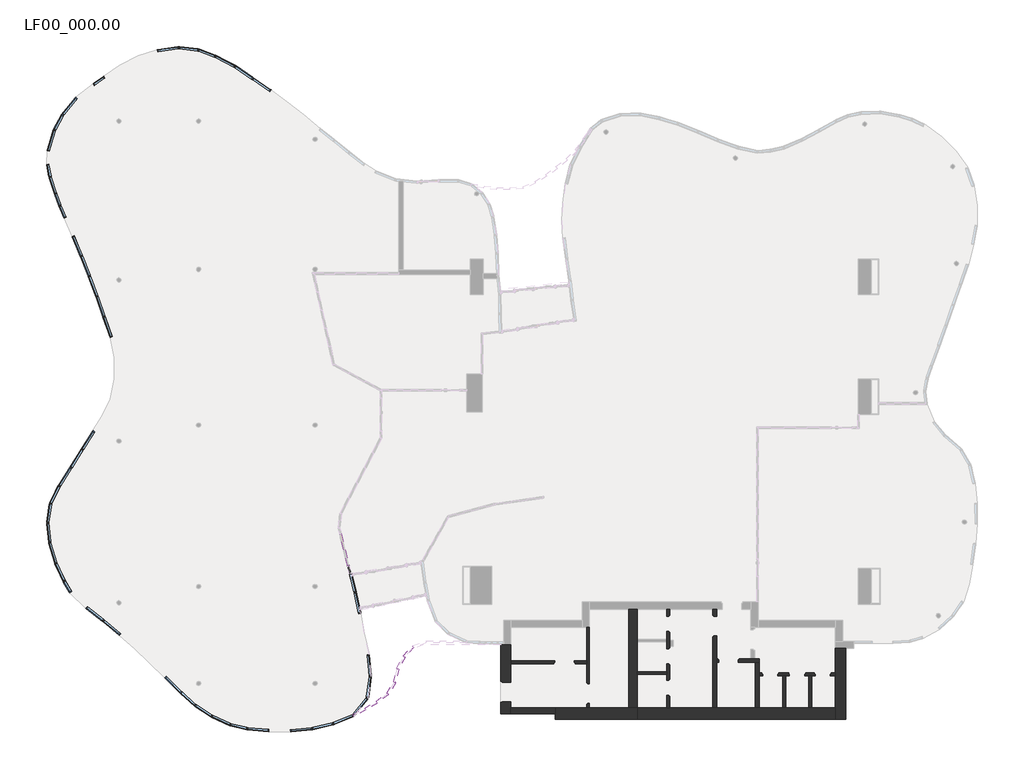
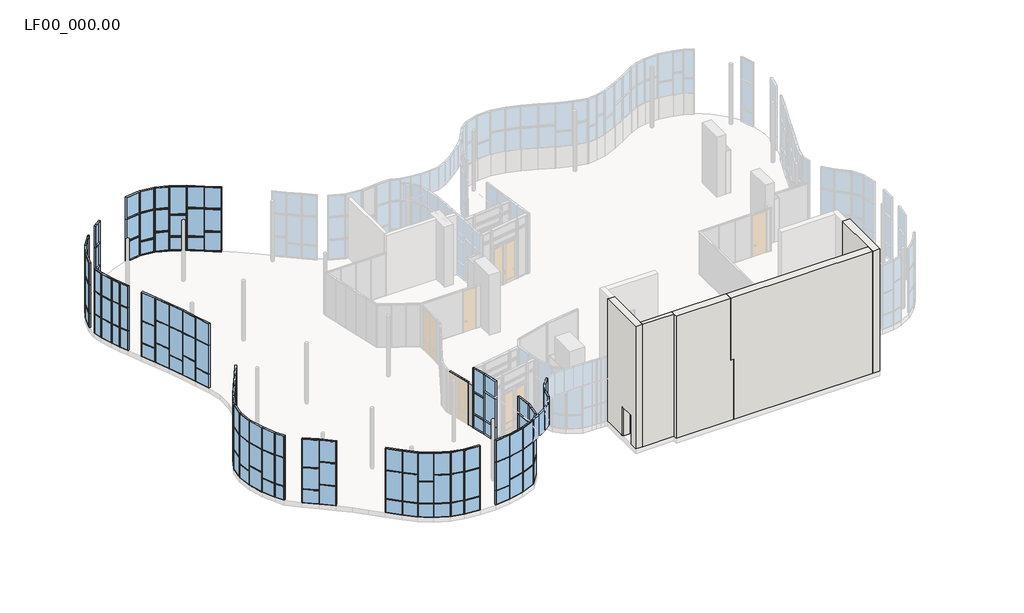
# One storey, part 1 of 8: 51 windows, 16 walls, 3 members, 1 plate.
"""IFC4 building model written with IfcOpenShell, lengths in millimetres."""

from ifc_helpers import new_model, si_unit, frame, origin, origin_with_axes, place, context, project, spatial, polyline, outline, extrude, faceted_brep, transform, mapped, element, save
from components import montante_rettangolare_ac_080x010_f14e0e64, montante_rettangolare_ac_080x050_a195ecd1, ve3_036_760cb13e, window_a39038a6, window_a7bb458b, window_1ea6608f, window_13cf38aa, window_36c3ef3e, window_04857959, window_4195a185, window_0f1a396c, window_b5501017, window_13306c7d, window_16313ac1, window_09fc64a4, window_0b33e4cf, window_5c8b0772, window_54e6ce9d, al_62_ab90a766

model = new_model("IFC4")

# Units and contexts
model_context = context("Model", 3, world=origin())
ifc_project = project(units=[si_unit("LENGTHUNIT", "METRE", prefix="MILLI")], contexts=[model_context])

# Site, building, storey
site = spatial("IfcSite", under=ifc_project)
building = spatial("IfcBuilding", under=site)
storey = spatial("IfcBuildingStorey", under=building, Name="LF00_000.00", Elevation=0.0)

# Members
placement = place(None, origin())
montante_rettangolare_ac_080x010_shape = montante_rettangolare_ac_080x010_f14e0e64(model_context)
element("IfcMember", 1, ObjectType="Montante rettangolare : AC_080x010", at=placement, inside=storey, context=model_context, shape_type="MappedRepresentation", body=[
    mapped(montante_rettangolare_ac_080x010_shape, transform((-92480.8990826, 3769.4366952, 20.0), x_axis=(0.23693617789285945, -0.9715252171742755, 0.0), y_axis=(-0.9715252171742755, -0.23693617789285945, 0.0), z_axis=(0.0, 0.0, -1.0))),
])
element("IfcMember", 2, ObjectType="Montante rettangolare : AC_080x010", at=placement, inside=storey, context=model_context, shape_type="MappedRepresentation", body=[
    mapped(montante_rettangolare_ac_080x010_shape, transform((-92395.6020585, 3419.687617, 20.0), x_axis=(0.23693617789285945, -0.9715252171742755, 0.0), y_axis=(-0.9715252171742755, -0.23693617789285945, 0.0), z_axis=(0.0, 0.0, -1.0))),
])
montante_rettangolare_ac_080x050_shape = montante_rettangolare_ac_080x050_a195ecd1(model_context)
element("IfcMember", 3, ObjectType="Montante rettangolare : AC_080x050", at=placement, inside=storey, context=model_context, shape_type="MappedRepresentation", body=[
    mapped(montante_rettangolare_ac_080x050_shape, transform((-92480.8990826, 3769.4366952, 3000.0), x_axis=(0.0, 0.0, 1.0), y_axis=(-0.9715252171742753, -0.23693617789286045, 0.0), z_axis=(0.23693617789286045, -0.9715252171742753, 0.0))),
])

# Plate
ve3_036_shape = ve3_036_760cb13e(model_context)
element("IfcPlate", 4, ObjectType="TRP_CP_ARC_PF_RE_SE : VE3_036", at=placement, inside=storey, context=model_context, shape_type="MappedRepresentation", body=[
    mapped(ve3_036_shape, transform((-92439.4352514, 3599.4197822, 20.0), x_axis=(0.23693617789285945, -0.9715252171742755, 0.0), y_axis=(0.9715252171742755, 0.23693617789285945, 0.0), z_axis=(0.0, 0.0, 1.0))),
])

# Walls
element("IfcWall", 5, ObjectType="T7 *", at=placement, inside=storey, context=model_context, shape_type="Brep", body=[
    faceted_brep([(-85408.6351, -3091.598808, 8540.0), (-85408.6351, 118.401192, 8540.0), (-85408.6351, 118.401192, 0.0), (-85408.6351, -1579.421234, 0.0), (-85408.6351, -1579.421234, 2045.0), (-85408.6351, -2569.421234, 2045.0), (-85408.6351, -2569.421234, 0.0), (-85408.6351, -3091.598808, 0.0), (-84938.6351, 118.401192, 8540.0), (-84938.6351, -2816.598808, 8540.0), (-84938.6351, -3091.598808, 8540.0), (-84938.6351, -3091.598808, 0.0), (-84938.6351, -2816.598808, 0.0), (-84938.6351, -2524.421234, 0.0), (-84938.6351, -2524.421234, 2000.0), (-84938.6351, -1624.421234, 2000.0), (-84938.6351, -1624.421234, 0.0), (-84938.6351, -767.0891615, 0.0), (-84938.6351, -632.0891615, 0.0), (-84938.6351, 118.401192, 0.0), (-85268.6351, 118.401192, 0.0), (-85348.6351, -1624.421234, 0.0), (-85348.6351, -1579.421234, 0.0), (-85348.6351, -2569.421234, 0.0), (-85348.6351, -2524.421234, 0.0), (-85268.6351, 118.401192, 8540.0), (-85348.6351, -1624.421234, 2000.0), (-85348.6351, -2524.421234, 2000.0), (-85348.6351, -2569.421234, 2045.0), (-85348.6351, -1579.421234, 2045.0)], [[[0, 1, 2, 3, 4, 5, 6, 7]], [[8, 9, 10, 11, 12, 13, 14, 15, 16, 17, 18, 19]], [[2, 20, 19, 18, 17, 16, 21, 22, 3]], [[11, 7, 6, 23, 24, 13, 12]], [[1, 0, 10, 9, 8, 25]], [[2, 1, 25, 8, 19, 20]], [[0, 7, 11, 10]], [[26, 15, 14, 27]], [[15, 26, 21, 16]], [[27, 14, 13, 24]], [[26, 27, 24, 23, 28, 29, 22, 21]], [[22, 29, 4, 3]], [[29, 28, 5, 4]], [[28, 23, 6, 5]]]),
])
element("IfcWall", 6, ObjectType="T13 *", at=placement, inside=storey, context=model_context, shape_type="Brep", body=[
    faceted_brep([(-81429.6132945, -2816.598808, 4200.0), (-81429.6132945, -767.0891615, 4200.0), (-81429.6132945, -632.0891615, 4200.0), (-81429.6132945, 923.401192, 4200.0), (-81429.6132945, 923.401192, 0.0), (-81429.6132945, -632.0891615, 0.0), (-81429.6132945, -767.0891615, 0.0), (-81429.6132945, -1663.776382, 0.0), (-81429.6132945, -1663.776382, 2045.0), (-81429.6132945, -2653.776382, 2045.0), (-81429.6132945, -2653.776382, 0.0), (-81429.6132945, -2816.598808, 0.0), (-81294.6132945, 923.401192, 4200.0), (-81294.6132945, -2816.598808, 4200.0), (-81294.6132945, -2816.598808, 0.0), (-81294.6132945, -2608.776382, 0.0), (-81294.6132945, -2608.776382, 2000.0), (-81294.6132945, -1708.776382, 2000.0), (-81294.6132945, -1708.776382, 0.0), (-81294.6132945, 923.401192, 0.0), (-81369.6132945, -1708.776382, 0.0), (-81369.6132945, -1663.776382, 0.0), (-81369.6132945, -2653.776382, 0.0), (-81369.6132945, -2608.776382, 0.0), (-81369.6132945, -2608.776382, 2000.0), (-81369.6132945, -1663.776382, 2045.0), (-81369.6132945, -2653.776382, 2045.0), (-81369.6132945, -1708.776382, 2000.0)], [[[0, 1, 2, 3, 4, 5, 6, 7, 8, 9, 10, 11]], [[12, 13, 14, 15, 16, 17, 18, 19]], [[4, 19, 18, 20, 21, 7, 6, 5]], [[14, 11, 10, 22, 23, 15]], [[3, 2, 1, 0, 13, 12]], [[4, 3, 12, 19]], [[0, 11, 14, 13]], [[24, 16, 15, 23]], [[25, 26, 9, 8]], [[26, 22, 10, 9]], [[16, 24, 27, 17]], [[17, 27, 20, 18]], [[27, 24, 23, 22, 26, 25, 21, 20]], [[21, 25, 8, 7]]]),
])
element("IfcWall", 7, ObjectType="T13 *", at=placement, inside=storey, context=model_context, shape_type="Brep", body=[
    faceted_brep([(-84938.6351, -632.0891615, 4200.0), (-81429.6132945, -632.0891615, 4200.0), (-81429.6132945, -632.0891615, 0.0), (-81997.4357205, -632.0891615, 0.0), (-81997.4357205, -632.0891615, 2000.0), (-82897.4357205, -632.0891615, 2000.0), (-82897.4357205, -632.0891615, 0.0), (-84938.6351, -632.0891615, 0.0), (-81429.6132945, -767.0891615, 4200.0), (-84938.6351, -767.0891615, 4200.0), (-84938.6351, -767.0891615, 0.0), (-82942.4357205, -767.0891615, 0.0), (-82942.4357205, -767.0891615, 2045.0), (-81952.4357205, -767.0891615, 2045.0), (-81952.4357205, -767.0891615, 0.0), (-81429.6132945, -767.0891615, 0.0), (-82897.4357205, -707.0891615, 0.0), (-82942.4357205, -707.0891615, 0.0), (-81952.4357205, -707.0891615, 0.0), (-81997.4357205, -707.0891615, 0.0), (-81997.4357205, -707.0891615, 2000.0), (-82942.4357205, -707.0891615, 2045.0), (-81952.4357205, -707.0891615, 2045.0), (-82897.4357205, -707.0891615, 2000.0)], [[[0, 1, 2, 3, 4, 5, 6, 7]], [[8, 9, 10, 11, 12, 13, 14, 15]], [[10, 7, 6, 16, 17, 11]], [[2, 15, 14, 18, 19, 3]], [[1, 0, 9, 8]], [[0, 7, 10, 9]], [[2, 1, 8, 15]], [[20, 4, 3, 19]], [[21, 22, 13, 12]], [[22, 18, 14, 13]], [[4, 20, 23, 5]], [[5, 23, 16, 6]], [[23, 20, 19, 18, 22, 21, 17, 16]], [[17, 21, 12, 11]]]),
])
element("IfcWall", 8, ObjectType="T14 *", at=placement, inside=storey, context=model_context, shape_type="Brep", body=[
    faceted_brep([(-82876.4250396, -3341.598808, 0.0), (-79072.4250396, -3341.598808, 0.0), (-79072.4250396, -3341.598808, 4200.0), (-79272.4250396, -3341.598808, 4200.0), (-79272.4250396, -3341.598808, 8540.0), (-82876.4250396, -3341.598808, 8540.0), (-79072.4250396, -2816.598808, 0.0), (-79472.4250396, -2816.598808, 0.0), (-81294.6132945, -2816.598808, 0.0), (-81429.6132945, -2816.598808, 0.0), (-82876.4250396, -2816.598808, 0.0), (-82876.4250396, -2816.598808, 4361.0), (-82876.4250396, -2816.598808, 4460.0), (-82876.4250396, -2816.598808, 8540.0), (-79272.4250396, -2816.598808, 8540.0), (-79272.4250396, -2816.598808, 4460.0), (-79272.4250396, -2816.598808, 4361.0), (-79272.4250396, -2816.598808, 4200.0), (-79072.4250396, -2816.598808, 4200.0), (-82876.4250396, -3091.598808, 0.0), (-82876.4250396, -3091.598808, 8540.0)], [[[0, 1, 2, 3, 4, 5]], [[6, 7, 8, 9, 10, 11, 12, 13, 14, 15, 16, 17, 18]], [[1, 0, 19, 10, 9, 8, 7, 6]], [[5, 4, 14, 13, 20]], [[0, 5, 20, 13, 12, 11, 10, 19]], [[14, 4, 3, 17, 16, 15]], [[17, 3, 2, 18]], [[1, 6, 18, 2]]]),
])
element("IfcWall", 9, ObjectType="T14 *", at=placement, inside=storey, context=model_context, shape_type="Brep", body=[
    faceted_brep([(-79072.4250396, -3341.598808, 0.0), (-69883.995124, -3341.598808, 0.0), (-69883.995124, -3341.598808, 8540.0), (-79272.4250396, -3341.598808, 8540.0), (-79272.4250396, -3341.598808, 4200.0), (-79072.4250396, -3341.598808, 4200.0), (-79272.4250396, -2816.598808, 8540.0), (-69883.995124, -2816.598808, 8540.0), (-69883.995124, -2816.598808, 4460.0), (-79272.4250396, -2816.598808, 4460.0), (-69883.995124, -2816.598808, 0.0), (-70984.2746822, -2816.598808, 0.0), (-71119.2746822, -2816.598808, 0.0), (-72189.1639728, -2816.598808, 0.0), (-72324.1639728, -2816.598808, 0.0), (-73414.1363766, -2816.598808, 0.0), (-73594.1363766, -2816.598808, 0.0), (-75399.1899595, -2816.598808, 0.0), (-75579.1899595, -2816.598808, 0.0), (-77567.4250396, -2816.598808, 0.0), (-77702.4250396, -2816.598808, 0.0), (-79072.4250396, -2816.598808, 0.0), (-79072.4250396, -2816.598808, 4200.0), (-79272.4250396, -2816.598808, 4200.0), (-79272.4250396, -2816.598808, 4361.0), (-69883.995124, -2816.598808, 4361.0), (-79272.4250396, -2956.598808, 4460.0), (-79272.4250396, -2956.598808, 4361.0), (-69883.995124, -2956.598808, 4361.0), (-69883.995124, -2956.598808, 4460.0)], [[[0, 1, 2, 3, 4, 5]], [[6, 7, 8, 9]], [[10, 11, 12, 13, 14, 15, 16, 17, 18, 19, 20, 21, 22, 23, 24, 25]], [[1, 0, 21, 20, 19, 18, 17, 16, 15, 14, 13, 12, 11, 10]], [[3, 2, 7, 6]], [[3, 6, 9, 26, 27, 24, 23, 4]], [[4, 23, 22, 5]], [[21, 0, 5, 22]], [[27, 28, 25, 24]], [[29, 26, 9, 8]], [[28, 27, 26, 29]], [[2, 1, 10, 25, 28, 29, 8, 7]]]),
])
element("IfcWall", 10, ObjectType="T7 *", at=placement, inside=storey, context=model_context, shape_type="Brep", body=[
    faceted_brep([(-69883.995124, -51.598808, 0.0), (-69883.995124, -1198.7498774, 0.0), (-69883.995124, -1333.7498774, 0.0), (-69883.995124, -2816.598808, 0.0), (-69883.995124, -3341.598808, 0.0), (-69883.995124, -3341.598808, 8540.0), (-69883.995124, -2816.598808, 8540.0), (-69883.995124, 113.401192, 8540.0), (-69883.995124, 113.401192, 4500.0), (-69883.995124, -51.598808, 4500.0), (-69413.995124, -51.598808, 0.0), (-69413.995124, -51.598808, 4500.0), (-69413.995124, 113.401192, 4500.0), (-69413.995124, 113.401192, 8540.0), (-69413.995124, -3341.598808, 8540.0), (-69413.995124, -3341.598808, 0.0), (-69553.995124, 113.401192, 8540.0), (-69553.995124, 113.401192, 4500.0)], [[[0, 1, 2, 3, 4, 5, 6, 7, 8, 9]], [[10, 11, 12, 13, 14, 15]], [[4, 3, 2, 1, 0, 10, 15]], [[7, 6, 5, 14, 13, 16]], [[8, 7, 16, 13, 12, 17]], [[8, 17, 12, 11, 9]], [[0, 9, 11, 10]], [[5, 4, 15, 14]]]),
])
element("IfcWall", 11, ObjectType="T12", at=placement, inside=storey, context=model_context, shape_type="Brep", body=[
    faceted_brep([(-79472.4250396, 1763.401192, 0.0), (-79472.4250396, -2816.598808, 0.0), (-79472.4250396, -2816.598808, 4200.0), (-79472.4250396, 1763.401192, 4200.0), (-79072.4250396, 1763.401192, 0.0), (-79072.4250396, 1763.401192, 4200.0), (-79072.4250396, 373.401192, 4200.0), (-79072.4250396, 238.401192, 4200.0), (-79072.4250396, -1131.598808, 4200.0), (-79072.4250396, -1266.598808, 4200.0), (-79072.4250396, -2816.598808, 4200.0), (-79072.4250396, -2816.598808, 0.0), (-79072.4250396, -1266.598808, 0.0), (-79072.4250396, -1131.598808, 0.0), (-79072.4250396, 238.401192, 0.0), (-79072.4250396, 373.401192, 0.0), (-79272.4250396, -2816.598808, 4200.0)], [[[0, 1, 2, 3]], [[4, 5, 6, 7, 8, 9, 10, 11, 12, 13, 14, 15]], [[1, 0, 4, 15, 14, 13, 12, 11]], [[3, 2, 16, 10, 9, 8, 7, 6, 5]], [[0, 3, 5, 4]], [[2, 1, 11, 10, 16]]]),
])
element("IfcWall", 12, ObjectType="T13", at=placement, inside=storey, context=model_context, shape_type="Brep", body=[
    faceted_brep([(-73414.1363766, -1198.7498774, 4200.0), (-69883.995124, -1198.7498774, 4200.0), (-69883.995124, -1198.7498774, 0.0), (-70069.1363766, -1198.7498774, 0.0), (-70069.1363766, -1198.7498774, 2145.0), (-70859.1363766, -1198.7498774, 2145.0), (-70859.1363766, -1198.7498774, 0.0), (-71269.1363766, -1198.7498774, 0.0), (-71269.1363766, -1198.7498774, 2145.0), (-72059.1363766, -1198.7498774, 2145.0), (-72059.1363766, -1198.7498774, 0.0), (-72519.1363766, -1198.7498774, 0.0), (-72519.1363766, -1198.7498774, 2145.0), (-73309.1363766, -1198.7498774, 2145.0), (-73309.1363766, -1198.7498774, 0.0), (-73414.1363766, -1198.7498774, 0.0), (-69883.995124, -1333.7498774, 4200.0), (-70984.2746822, -1333.7498774, 4200.0), (-71119.2746822, -1333.7498774, 4200.0), (-72189.1639728, -1333.7498774, 4200.0), (-72324.1639728, -1333.7498774, 4200.0), (-73414.1363766, -1333.7498774, 4200.0), (-73414.1363766, -1333.7498774, 0.0), (-73264.1363766, -1333.7498774, 0.0), (-73264.1363766, -1333.7498774, 2100.0), (-72564.1363766, -1333.7498774, 2100.0), (-72564.1363766, -1333.7498774, 0.0), (-72324.1639728, -1333.7498774, 0.0), (-72189.1639728, -1333.7498774, 0.0), (-72014.1363766, -1333.7498774, 0.0), (-72014.1363766, -1333.7498774, 2100.0), (-71314.1363766, -1333.7498774, 2100.0), (-71314.1363766, -1333.7498774, 0.0), (-71119.2746822, -1333.7498774, 0.0), (-70984.2746822, -1333.7498774, 0.0), (-70814.1363766, -1333.7498774, 0.0), (-70814.1363766, -1333.7498774, 2100.0), (-70114.1363766, -1333.7498774, 2100.0), (-70114.1363766, -1333.7498774, 0.0), (-69883.995124, -1333.7498774, 0.0), (-73309.1363766, -1258.7498774, 0.0), (-73264.1363766, -1258.7498774, 0.0), (-71314.1363766, -1258.7498774, 0.0), (-71269.1363766, -1258.7498774, 0.0), (-70859.1363766, -1258.7498774, 0.0), (-70814.1363766, -1258.7498774, 0.0), (-72059.1363766, -1258.7498774, 0.0), (-72014.1363766, -1258.7498774, 0.0), (-72564.1363766, -1258.7498774, 0.0), (-72519.1363766, -1258.7498774, 0.0), (-70114.1363766, -1258.7498774, 0.0), (-70069.1363766, -1258.7498774, 0.0), (-73264.1363766, -1258.7498774, 2100.0), (-72519.1363766, -1258.7498774, 2145.0), (-73309.1363766, -1258.7498774, 2145.0), (-71314.1363766, -1258.7498774, 2100.0), (-72059.1363766, -1258.7498774, 2145.0), (-71269.1363766, -1258.7498774, 2145.0), (-70114.1363766, -1258.7498774, 2100.0), (-70069.1363766, -1258.7498774, 2145.0), (-70859.1363766, -1258.7498774, 2145.0), (-72564.1363766, -1258.7498774, 2100.0), (-72014.1363766, -1258.7498774, 2100.0), (-70814.1363766, -1258.7498774, 2100.0)], [[[0, 1, 2, 3, 4, 5, 6, 7, 8, 9, 10, 11, 12, 13, 14, 15]], [[16, 17, 18, 19, 20, 21, 22, 23, 24, 25, 26, 27, 28, 29, 30, 31, 32, 33, 34, 35, 36, 37, 38, 39]], [[22, 15, 14, 40, 41, 23]], [[32, 42, 43, 7, 6, 44, 45, 35, 34, 33]], [[11, 10, 46, 47, 29, 28, 27, 26, 48, 49]], [[2, 39, 38, 50, 51, 3]], [[1, 0, 21, 20, 19, 18, 17, 16]], [[0, 15, 22, 21]], [[23, 41, 52, 24]], [[12, 53, 54, 13]], [[54, 40, 14, 13]], [[42, 32, 31, 55]], [[56, 9, 8, 57]], [[43, 57, 8, 7]], [[37, 58, 50, 38]], [[59, 60, 5, 4]], [[51, 59, 4, 3]], [[24, 52, 61, 25]], [[25, 61, 48, 26]], [[54, 53, 49, 48, 61, 52, 41, 40]], [[53, 12, 11, 49]], [[30, 62, 55, 31]], [[62, 30, 29, 47]], [[56, 57, 43, 42, 55, 62, 47, 46]], [[9, 56, 46, 10]], [[36, 63, 58, 37]], [[63, 36, 35, 45]], [[58, 63, 45, 44, 60, 59, 51, 50]], [[60, 44, 6, 5]], [[2, 1, 16, 39]]]),
])
element("IfcWall", 13, ObjectType="T13", at=placement, inside=storey, context=model_context, shape_type="SweptSolid", body=[
    extrude(outline(polyline([(-72324.1639728, -2816.598808), (-72324.1639728, -1333.7498774), (-72189.1639728, -1333.7498774), (-72189.1639728, -2816.598808), (-72324.1639728, -2816.598808)])), origin_with_axes(), (0.0, 0.0, 1.0), 4200.0),
])
element("IfcWall", 14, ObjectType="T13", at=placement, inside=storey, context=model_context, shape_type="SweptSolid", body=[
    extrude(outline(polyline([(-77702.4250396, -1266.598808), (-79072.4250396, -1266.598808), (-79072.4250396, -1131.598808), (-77702.4250396, -1131.598808), (-77702.4250396, -1266.598808)])), origin_with_axes(), (0.0, 0.0, 1.0), 4200.0),
])
element("IfcWall", 15, ObjectType="T13", at=placement, inside=storey, context=model_context, shape_type="Brep", body=[
    faceted_brep([(-77702.4250396, -2816.598808, 4200.0), (-77702.4250396, -1266.598808, 4200.0), (-77702.4250396, -1131.598808, 4200.0), (-77702.4250396, 238.401192, 4200.0), (-77702.4250396, 373.401192, 4200.0), (-77702.4250396, 1763.401192, 4200.0), (-77702.4250396, 1763.401192, 0.0), (-77702.4250396, 1443.401192, 0.0), (-77702.4250396, 1443.401192, 2100.0), (-77702.4250396, 743.401192, 2100.0), (-77702.4250396, 743.401192, 0.0), (-77702.4250396, 373.401192, 0.0), (-77702.4250396, 238.401192, 0.0), (-77702.4250396, -66.598808, 0.0), (-77702.4250396, -66.598808, 2100.0), (-77702.4250396, -766.598808, 2100.0), (-77702.4250396, -766.598808, 0.0), (-77702.4250396, -1131.598808, 0.0), (-77702.4250396, -1266.598808, 0.0), (-77702.4250396, -1532.9440134, 0.0), (-77702.4250396, -1532.9440134, 2100.0), (-77702.4250396, -2232.9440134, 2100.0), (-77702.4250396, -2232.9440134, 0.0), (-77702.4250396, -2816.598808, 0.0), (-77567.4250396, 1763.401192, 4200.0), (-77567.4250396, -2816.598808, 4200.0), (-77567.4250396, -2816.598808, 0.0), (-77567.4250396, -2277.9440134, 0.0), (-77567.4250396, -2277.9440134, 2145.0), (-77567.4250396, -1487.9440134, 2145.0), (-77567.4250396, -1487.9440134, 0.0), (-77567.4250396, -811.598808, 0.0), (-77567.4250396, -811.598808, 2145.0), (-77567.4250396, -21.598808, 2145.0), (-77567.4250396, -21.598808, 0.0), (-77567.4250396, 698.401192, 0.0), (-77567.4250396, 698.401192, 2145.0), (-77567.4250396, 1488.401192, 2145.0), (-77567.4250396, 1488.401192, 0.0), (-77567.4250396, 1763.401192, 0.0), (-77627.4250396, 1488.401192, 0.0), (-77627.4250396, 1443.401192, 0.0), (-77627.4250396, -2232.9440134, 0.0), (-77627.4250396, -2277.9440134, 0.0), (-77627.4250396, 743.401192, 0.0), (-77627.4250396, 698.401192, 0.0), (-77627.4250396, -21.598808, 0.0), (-77627.4250396, -66.598808, 0.0), (-77627.4250396, -766.598808, 0.0), (-77627.4250396, -811.598808, 0.0), (-77627.4250396, -1487.9440134, 0.0), (-77627.4250396, -1532.9440134, 0.0), (-77627.4250396, 743.401192, 2100.0), (-77627.4250396, 1443.401192, 2100.0), (-77627.4250396, 1488.401192, 2145.0), (-77627.4250396, 698.401192, 2145.0), (-77627.4250396, -766.598808, 2100.0), (-77627.4250396, -66.598808, 2100.0), (-77627.4250396, -21.598808, 2145.0), (-77627.4250396, -811.598808, 2145.0), (-77627.4250396, -1532.9440134, 2100.0), (-77627.4250396, -2232.9440134, 2100.0), (-77627.4250396, -1487.9440134, 2145.0), (-77627.4250396, -2277.9440134, 2145.0)], [[[0, 1, 2, 3, 4, 5, 6, 7, 8, 9, 10, 11, 12, 13, 14, 15, 16, 17, 18, 19, 20, 21, 22, 23]], [[24, 25, 26, 27, 28, 29, 30, 31, 32, 33, 34, 35, 36, 37, 38, 39]], [[6, 39, 38, 40, 41, 7]], [[26, 23, 22, 42, 43, 27]], [[10, 44, 45, 35, 34, 46, 47, 13, 12, 11]], [[16, 48, 49, 31, 30, 50, 51, 19, 18, 17]], [[5, 4, 3, 2, 1, 0, 25, 24]], [[6, 5, 24, 39]], [[0, 23, 26, 25]], [[52, 9, 8, 53]], [[9, 52, 44, 10]], [[53, 8, 7, 41]], [[52, 53, 41, 40, 54, 55, 45, 44]], [[45, 55, 36, 35]], [[55, 54, 37, 36]], [[54, 40, 38, 37]], [[56, 15, 14, 57]], [[15, 56, 48, 16]], [[57, 14, 13, 47]], [[56, 57, 47, 46, 58, 59, 49, 48]], [[49, 59, 32, 31]], [[59, 58, 33, 32]], [[58, 46, 34, 33]], [[20, 60, 61, 21]], [[60, 20, 19, 51]], [[21, 61, 42, 22]], [[61, 60, 51, 50, 62, 63, 43, 42]], [[62, 50, 30, 29]], [[63, 62, 29, 28]], [[43, 63, 28, 27]]]),
])
element("IfcWall", 16, ObjectType="T13", at=placement, inside=storey, context=model_context, shape_type="SweptSolid", body=[
    extrude(outline(polyline([(-70984.2746822, -1333.7498774), (-70984.2746822, -2816.598808), (-71119.2746822, -2816.598808), (-71119.2746822, -1333.7498774), (-70984.2746822, -1333.7498774)])), origin_with_axes(), (0.0, 0.0, 1.0), 4200.0),
])
element("IfcWall", 17, ObjectType="T14", at=placement, inside=storey, context=model_context, shape_type="SweptSolid", body=[
    extrude(outline(polyline([(-2816.598808, 0.0), (-3091.598808, 0.0), (-3091.598808, 8540.0), (-2816.598808, 8540.0), (-2816.598808, 4460.0), (-2956.598808, 4460.0), (-2956.598808, 4361.0), (-2816.598808, 4361.0), (-2816.598808, 0.0)])), frame((-84938.6351, 0.0, 0.0), z_axis=(1.0, 0.0, 0.0), x_axis=(0.0, 1.0, 0.0)), (0.0, 0.0, 1.0), 2062.2100604),
])
element("IfcWall", 18, ObjectType="T8", at=placement, inside=storey, context=model_context, shape_type="Brep", body=[
    faceted_brep([(-75579.1899595, -2816.598808, 4200.0), (-75579.1899595, 1763.401192, 4200.0), (-75579.1899595, 1763.401192, 0.0), (-75579.1899595, 1468.401192, 0.0), (-75579.1899595, 1468.401192, 2445.0), (-75579.1899595, 478.401192, 2445.0), (-75579.1899595, 478.401192, 0.0), (-75579.1899595, -2816.598808, 0.0), (-75399.1899595, 1763.401192, 4200.0), (-75399.1899595, -528.7498774, 4200.0), (-75399.1899595, -708.7498774, 4200.0), (-75399.1899595, -2816.598808, 4200.0), (-75399.1899595, -2816.598808, 0.0), (-75399.1899595, -708.7498774, 0.0), (-75399.1899595, -528.7498774, 0.0), (-75399.1899595, 523.401192, 0.0), (-75399.1899595, 523.401192, 2400.0), (-75399.1899595, 1423.401192, 2400.0), (-75399.1899595, 1423.401192, 0.0), (-75399.1899595, 1763.401192, 0.0), (-75519.1899595, 1423.401192, 0.0), (-75519.1899595, 1468.401192, 0.0), (-75519.1899595, 478.401192, 0.0), (-75519.1899595, 523.401192, 0.0), (-75519.1899595, 1423.401192, 2400.0), (-75519.1899595, 1468.401192, 2445.0), (-75519.1899595, 478.401192, 2445.0), (-75519.1899595, 523.401192, 2400.0)], [[[0, 1, 2, 3, 4, 5, 6, 7]], [[8, 9, 10, 11, 12, 13, 14, 15, 16, 17, 18, 19]], [[2, 19, 18, 20, 21, 3]], [[12, 7, 6, 22, 23, 15, 14, 13]], [[1, 0, 11, 10, 9, 8]], [[2, 1, 8, 19]], [[17, 24, 20, 18]], [[25, 26, 5, 4]], [[21, 25, 4, 3]], [[0, 7, 12, 11]], [[16, 27, 24, 17]], [[27, 16, 15, 23]], [[24, 27, 23, 22, 26, 25, 21, 20]], [[26, 22, 6, 5]]]),
])
element("IfcWall", 19, ObjectType="T8", at=placement, inside=storey, context=model_context, shape_type="Brep", body=[
    faceted_brep([(-73414.1363766, -708.7498774, 4200.0), (-73594.1363766, -708.7498774, 4200.0), (-75399.1899595, -708.7498774, 4200.0), (-75399.1899595, -708.7498774, 0.0), (-75294.6132945, -708.7498774, 0.0), (-75294.6132945, -708.7498774, 2400.0), (-74394.6132945, -708.7498774, 2400.0), (-74394.6132945, -708.7498774, 0.0), (-73594.1363766, -708.7498774, 0.0), (-73414.1363766, -708.7498774, 0.0), (-75399.1899595, -528.7498774, 4200.0), (-73804.6132945, -528.7498774, 4200.0), (-73624.6132945, -528.7498774, 4200.0), (-73414.1363766, -528.7498774, 4200.0), (-73414.1363766, -528.7498774, 0.0), (-73624.6132945, -528.7498774, 0.0), (-73804.6132945, -528.7498774, 0.0), (-74349.6132945, -528.7498774, 0.0), (-74349.6132945, -528.7498774, 2445.0), (-75339.6132945, -528.7498774, 2445.0), (-75339.6132945, -528.7498774, 0.0), (-75399.1899595, -528.7498774, 0.0), (-75339.6132945, -588.7498774, 0.0), (-75294.6132945, -588.7498774, 0.0), (-74394.6132945, -588.7498774, 0.0), (-74349.6132945, -588.7498774, 0.0), (-75294.6132945, -588.7498774, 2400.0), (-74394.6132945, -588.7498774, 2400.0), (-75339.6132945, -588.7498774, 2445.0), (-74349.6132945, -588.7498774, 2445.0)], [[[0, 1, 2, 3, 4, 5, 6, 7, 8, 9]], [[10, 11, 12, 13, 14, 15, 16, 17, 18, 19, 20, 21]], [[3, 21, 20, 22, 23, 4]], [[14, 9, 8, 7, 24, 25, 17, 16, 15]], [[2, 1, 0, 13, 12, 11, 10]], [[3, 2, 10, 21]], [[0, 9, 14, 13]], [[5, 26, 27, 6]], [[6, 27, 24, 7]], [[26, 5, 4, 23]], [[27, 26, 23, 22, 28, 29, 25, 24]], [[25, 29, 18, 17]], [[29, 28, 19, 18]], [[28, 22, 20, 19]]]),
])
element("IfcWall", 20, ObjectType="T8", at=placement, inside=storey, context=model_context, shape_type="Brep", body=[
    faceted_brep([(-73594.1363766, -708.7498774, 0.0), (-73594.1363766, -2816.598808, 0.0), (-73594.1363766, -2816.598808, 4200.0), (-73594.1363766, -708.7498774, 4200.0), (-73414.1363766, -708.7498774, 0.0), (-73414.1363766, -708.7498774, 4200.0), (-73414.1363766, -1198.7498774, 4200.0), (-73414.1363766, -1333.7498774, 4200.0), (-73414.1363766, -2816.598808, 4200.0), (-73414.1363766, -2816.598808, 0.0), (-73414.1363766, -1333.7498774, 0.0), (-73414.1363766, -1198.7498774, 0.0)], [[[0, 1, 2, 3]], [[4, 5, 6, 7, 8, 9, 10, 11]], [[1, 0, 4, 11, 10, 9]], [[3, 2, 8, 7, 6, 5]], [[0, 3, 5, 4]], [[2, 1, 9, 8]]]),
])

# Windows
window_shape = window_a39038a6(model_context)
element("IfcWindow", 21, ObjectType="TRP_CP_ARC_FI_V1 : AL_P02_90_420", at=placement, inside=storey, context=model_context, shape_type="MappedRepresentation", body=[
    mapped(window_shape, transform((-92275.4957199, 2986.1211888, 0.0), x_axis=(-0.24547536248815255, 0.9694028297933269, 0.0), y_axis=(-0.9694028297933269, -0.24547536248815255, 0.0), z_axis=(0.0, 0.0, 1.0))),
])
window_2_shape = window_a7bb458b(model_context)
element("IfcWindow", 22, ObjectType="TRP_CP_ARC_FI_V1 : AL_P01_100_420", at=placement, inside=storey, context=model_context, shape_type="MappedRepresentation", body=[
    mapped(window_2_shape, transform((-92061.862394, 2058.548881, 0.0), x_axis=(-0.2054115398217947, 0.9786756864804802, 0.0), y_axis=(-0.9786756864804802, -0.2054115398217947, 0.0), z_axis=(0.0, 0.0, 1.0))),
])
element("IfcWindow", 23, ObjectType="TRP_CP_ARC_FI_V1 : AL_P01_100_420", at=placement, inside=storey, context=model_context, shape_type="MappedRepresentation", body=[
    mapped(window_2_shape, transform((-91514.2931184, -847.0176899, 0.0), x_axis=(-0.101870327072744, 0.9947976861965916, 0.0), y_axis=(-0.9947976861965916, -0.101870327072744, 0.0), z_axis=(0.0, 0.0, 1.0))),
])
window_3_shape = window_1ea6608f(model_context)
element("IfcWindow", 24, ObjectType="TRP_CP_ARC_FI_V1 : VE_VF1_100_420", at=placement, inside=storey, context=model_context, shape_type="MappedRepresentation", body=[
    mapped(window_3_shape, transform((-91531.4276272, -1851.6694054, 0.0), x_axis=(0.13573410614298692, 0.9907453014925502, 0.0), y_axis=(-0.9907453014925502, 0.13573410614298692, 0.0), z_axis=(0.0, 0.0, 1.0))),
])
element("IfcWindow", 25, ObjectType="TRP_CP_ARC_FI_V1 : VE_VF1_100_420", at=placement, inside=storey, context=model_context, shape_type="MappedRepresentation", body=[
    mapped(window_3_shape, transform((-91924.6348428, -2760.2943511, 0.0), x_axis=(0.6293203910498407, 0.7771459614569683, 0.0), y_axis=(-0.7771459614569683, 0.6293203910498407, 0.0), z_axis=(0.0, 0.0, 1.0))),
])
window_4_shape = window_13cf38aa(model_context)
element("IfcWindow", 26, ObjectType="TRP_CP_ARC_FI_V1 : AL_P02_90", at=placement, inside=storey, context=model_context, shape_type="MappedRepresentation", body=[
    mapped(window_4_shape, transform((-99200.2328295, -2949.2734435, 0.0), x_axis=(0.8388535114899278, -0.5443572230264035, 0.0), y_axis=(0.5443572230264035, 0.8388535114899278, 0.0), z_axis=(0.0, 0.0, 1.0))),
])
window_5_shape = window_36c3ef3e(model_context)
element("IfcWindow", 27, ObjectType="TRP_CP_ARC_FI_V1 : AL_P01_100", at=placement, inside=storey, context=model_context, shape_type="MappedRepresentation", body=[
    mapped(window_5_shape, transform((-96669.7742426, -3822.729442, 0.0), x_axis=(0.9963752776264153, -0.08506648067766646, 0.0), y_axis=(0.08506648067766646, 0.9963752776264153, 0.0), z_axis=(0.0, 0.0, 1.0))),
])
element("IfcWindow", 28, ObjectType="TRP_CP_ARC_FI_V1 : AL_P01_100", at=placement, inside=storey, context=model_context, shape_type="MappedRepresentation", body=[
    mapped(window_5_shape, transform((-104321.7126003, 16758.5913049, 0.0), x_axis=(0.3504847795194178, -0.9365684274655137, 0.0), y_axis=(0.9365684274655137, 0.3504847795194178, 0.0), z_axis=(0.0, 0.0, 1.0))),
])
element("IfcWindow", 29, ObjectType="TRP_CP_ARC_FI_V1 : AL_P01_100", at=placement, inside=storey, context=model_context, shape_type="MappedRepresentation", body=[
    mapped(window_5_shape, transform((-106265.1939154, 23522.1982307, 0.0), x_axis=(-0.28673243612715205, -0.9580107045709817, 0.0), y_axis=(0.9580107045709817, -0.28673243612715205, 0.0), z_axis=(0.0, 0.0, 1.0))),
])
element("IfcWindow", 30, ObjectType="TRP_CP_ARC_FI_V1 : AL_P01_100", at=placement, inside=storey, context=model_context, shape_type="MappedRepresentation", body=[
    mapped(window_5_shape, transform((-105410.0948695, 25106.0129162, 0.0), x_axis=(-0.6372799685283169, -0.770632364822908, 0.0), y_axis=(0.770632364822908, -0.6372799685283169, 0.0), z_axis=(0.0, 0.0, 1.0))),
])
window_6_shape = window_04857959(model_context)
element("IfcWindow", 31, ObjectType="TRP_CP_ARC_FI_V1 : VE_VF1_100", at=placement, inside=storey, context=model_context, shape_type="MappedRepresentation", body=[
    mapped(window_6_shape, transform((-92718.8682067, -3358.7921192, 0.0), x_axis=(0.9205048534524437, 0.3907311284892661, 0.0), y_axis=(-0.3907311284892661, 0.9205048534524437, 0.0), z_axis=(0.0, 0.0, 1.0))),
])
element("IfcWindow", 32, ObjectType="TRP_CP_ARC_FI_V1 : VE_VF1_100", at=placement, inside=storey, context=model_context, shape_type="MappedRepresentation", body=[
    mapped(window_6_shape, transform((-103456.0128366, 910.5685582, 0.0), x_axis=(0.7692815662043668, -0.6389099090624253, 0.0), y_axis=(0.6389099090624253, 0.7692815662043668, 0.0), z_axis=(0.0, 0.0, 1.0))),
])
element("IfcWindow", 33, ObjectType="TRP_CP_ARC_FI_V1 : VE_VF1_100", at=placement, inside=storey, context=model_context, shape_type="MappedRepresentation", body=[
    mapped(window_6_shape, transform((-106191.3225758, 4378.7724886, 0.0), x_axis=(0.2839240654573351, -0.9588467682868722, 0.0), y_axis=(0.9588467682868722, 0.2839240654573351, 0.0), z_axis=(0.0, 0.0, 1.0))),
])
element("IfcWindow", 34, ObjectType="TRP_CP_ARC_FI_V1 : VE_VF1_100", at=placement, inside=storey, context=model_context, shape_type="MappedRepresentation", body=[
    mapped(window_6_shape, transform((-103981.8262103, 15816.9545786, 0.0), x_axis=(0.3284942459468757, -0.9445059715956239, 0.0), y_axis=(0.9445059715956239, 0.3284942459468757, 0.0), z_axis=(0.0, 0.0, 1.0))),
])
element("IfcWindow", 35, ObjectType="TRP_CP_ARC_FI_V1 : VE_VF1_100", at=placement, inside=storey, context=model_context, shape_type="MappedRepresentation", body=[
    mapped(window_6_shape, transform((-100844.8592606, 27765.2282233, 0.0), x_axis=(-0.990001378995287, -0.14105768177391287, 0.0), y_axis=(0.14105768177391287, -0.990001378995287, 0.0), z_axis=(0.0, 0.0, 1.0))),
])
element("IfcWindow", 36, ObjectType="TRP_CP_ARC_FI_V1 : AL_P03_100", at=placement, inside=storey, context=model_context, shape_type="MappedRepresentation", body=[
    mapped(window_6_shape, transform((-93674.5946695, -3669.3264712, 0.0), x_axis=(0.9743700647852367, 0.2249510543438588, 0.0), y_axis=(-0.2249510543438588, 0.9743700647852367, 0.0), z_axis=(0.0, 0.0, 1.0))),
])
element("IfcWindow", 37, ObjectType="TRP_CP_ARC_FI_V1 : AL_P03_100", at=placement, inside=storey, context=model_context, shape_type="MappedRepresentation", body=[
    mapped(window_6_shape, transform((-105622.0520575, 7912.9152147, 0.0), x_axis=(-0.5403705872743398, -0.8414271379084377, 0.0), y_axis=(0.8414271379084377, -0.5403705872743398, 0.0), z_axis=(0.0, 0.0, 1.0))),
])
element("IfcWindow", 38, ObjectType="TRP_CP_ARC_FI_V1 : AL_P03_100", at=placement, inside=storey, context=model_context, shape_type="MappedRepresentation", body=[
    mapped(window_6_shape, transform((-104682.1364656, 17692.4231504, 0.0), x_axis=(0.36962424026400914, -0.9291813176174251, 0.0), y_axis=(0.9291813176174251, 0.36962424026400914, 0.0), z_axis=(0.0, 0.0, 1.0))),
])
element("IfcWindow", 39, ObjectType="TRP_CP_ARC_FI_V1 : AL_P03_100", at=placement, inside=storey, context=model_context, shape_type="MappedRepresentation", body=[
    mapped(window_6_shape, transform((-96509.099338, 26114.6586335, 0.0), x_axis=(-0.8247885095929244, 0.5654413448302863, 0.0), y_axis=(-0.5654413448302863, -0.8247885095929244, 0.0), z_axis=(0.0, 0.0, 1.0))),
])
element("IfcWindow", 40, ObjectType="TRP_CP_ARC_FI_V1 : VE_VF2_100", at=placement, inside=storey, context=model_context, shape_type="MappedRepresentation", body=[
    mapped(window_5_shape, transform((-94665.0858781, -3834.957491, 0.0), x_axis=(0.9945465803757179, 0.10429333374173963, 0.0), y_axis=(-0.10429333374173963, 0.9945465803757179, 0.0), z_axis=(0.0, 0.0, 1.0))),
])
element("IfcWindow", 41, ObjectType="TRP_CP_ARC_FI_V1 : VE_VF2_100", at=placement, inside=storey, context=model_context, shape_type="MappedRepresentation", body=[
    mapped(window_5_shape, transform((-100606.4526174, -1739.8541, 0.0), x_axis=(0.7046603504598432, -0.7095447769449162, 0.0), y_axis=(0.7095447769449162, 0.7046603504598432, 0.0), z_axis=(0.0, 0.0, 1.0))),
])
element("IfcWindow", 42, ObjectType="TRP_CP_ARC_FI_V1 : VE_VF2_100", at=placement, inside=storey, context=model_context, shape_type="MappedRepresentation", body=[
    mapped(window_5_shape, transform((-104554.1683691, 9603.6775604, 0.0), x_axis=(-0.5369257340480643, -0.8436295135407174, 0.0), y_axis=(0.8436295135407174, -0.5369257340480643, 0.0), z_axis=(0.0, 0.0, 1.0))),
])
element("IfcWindow", 43, ObjectType="TRP_CP_ARC_FI_V1 : VE_VF2_100", at=placement, inside=storey, context=model_context, shape_type="MappedRepresentation", body=[
    mapped(window_5_shape, transform((-103653.981612, 14872.1477782, 0.0), x_axis=(0.327148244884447, -0.9449730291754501, 0.0), y_axis=(0.9449730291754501, 0.327148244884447, 0.0), z_axis=(0.0, 0.0, 1.0))),
])
element("IfcWindow", 44, ObjectType="TRP_CP_ARC_FI_V1 : VE_VF2_100", at=placement, inside=storey, context=model_context, shape_type="MappedRepresentation", body=[
    mapped(window_5_shape, transform((-97333.9802909, 26679.9903359, 0.0), x_axis=(-0.8249498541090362, 0.5652059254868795, 0.0), y_axis=(-0.5652059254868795, -0.8249498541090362, 0.0), z_axis=(0.0, 0.0, 1.0))),
])
window_7_shape = window_4195a185(model_context)
element("IfcWindow", 45, ObjectType="TRP_CP_ARC_FI_V1 : VE_VF2_80", at=placement, inside=storey, context=model_context, shape_type="MappedRepresentation", body=[
    mapped(window_7_shape, transform((-97564.5174001, -3687.3394132, 0.0), x_axis=(0.9733639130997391, -0.22926555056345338, 0.0), y_axis=(0.22926555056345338, 0.9733639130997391, 0.0), z_axis=(0.0, 0.0, 1.0))),
])
element("IfcWindow", 46, ObjectType="TRP_CP_ARC_FI_V1 : VE_VF2_80", at=placement, inside=storey, context=model_context, shape_type="MappedRepresentation", body=[
    mapped(window_7_shape, transform((-105925.9380597, 24361.8325937, 0.0), x_axis=(-0.4796549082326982, -0.8774572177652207, 0.0), y_axis=(0.8774572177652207, -0.4796549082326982, 0.0), z_axis=(0.0, 0.0, 1.0))),
])
window_8_shape = window_0f1a396c(model_context)
element("IfcWindow", 47, ObjectType="TRP_CP_ARC_FI_V1 : VE_VF2_94", at=placement, inside=storey, context=model_context, shape_type="MappedRepresentation", body=[
    mapped(window_8_shape, transform((-98389.9585582, -3395.007577, 0.0), x_axis=(0.9075863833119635, -0.4198654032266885, 0.0), y_axis=(0.4198654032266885, 0.9075863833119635, 0.0), z_axis=(0.0, 0.0, 1.0))),
])
window_9_shape = window_b5501017(model_context)
element("IfcWindow", 48, ObjectType="TRP_CP_ARC_FI_V1 : AL_P01_90", at=placement, inside=storey, context=model_context, shape_type="MappedRepresentation", body=[
    mapped(window_9_shape, transform((-99918.070823, -2398.0009751, 0.0), x_axis=(0.7423846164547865, -0.6699739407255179, 0.0), y_axis=(0.6699739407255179, 0.7423846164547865, 0.0), z_axis=(0.0, 0.0, 1.0))),
])
element("IfcWindow", 49, ObjectType="TRP_CP_ARC_FI_V1 : AL_P01_90", at=placement, inside=storey, context=model_context, shape_type="MappedRepresentation", body=[
    mapped(window_9_shape, transform((-106383.5607661, 5314.3797762, 0.0), x_axis=(0.10779969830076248, -0.9941726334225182, 0.0), y_axis=(0.9941726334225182, 0.10779969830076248, 0.0), z_axis=(0.0, 0.0, 1.0))),
])
element("IfcWindow", 50, ObjectType="TRP_CP_ARC_FI_V1 : AL_P01_90", at=placement, inside=storey, context=model_context, shape_type="MappedRepresentation", body=[
    mapped(window_9_shape, transform((-99890.0744139, 27780.392324, 0.0), x_axis=(-0.992369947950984, 0.12329593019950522, 0.0), y_axis=(-0.12329593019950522, -0.992369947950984, 0.0), z_axis=(0.0, 0.0, 1.0))),
])
window_10_shape = window_13306c7d(model_context)
element("IfcWindow", 51, ObjectType="TRP_CP_ARC_FI_V1 : AL_P02_100", at=placement, inside=storey, context=model_context, shape_type="MappedRepresentation", body=[
    mapped(window_10_shape, transform((-104236.6712577, 1537.8995491, 0.0), x_axis=(0.7895171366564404, -0.6137285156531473, 0.0), y_axis=(0.6137285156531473, 0.7895171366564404, 0.0), z_axis=(0.0, 0.0, 1.0))),
])
element("IfcWindow", 52, ObjectType="TRP_CP_ARC_FI_V1 : AL_P02_100", at=placement, inside=storey, context=model_context, shape_type="MappedRepresentation", body=[
    mapped(window_10_shape, transform((-105087.5428968, 8757.2806679, 0.0), x_axis=(-0.5293456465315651, -0.8484062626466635, 0.0), y_axis=(0.8484062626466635, -0.5293456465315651, 0.0), z_axis=(0.0, 0.0, 1.0))),
])
element("IfcWindow", 53, ObjectType="TRP_CP_ARC_FI_V1 : AL_P02_100", at=placement, inside=storey, context=model_context, shape_type="MappedRepresentation", body=[
    mapped(window_10_shape, transform((-105060.5691896, 18618.9943353, 0.0), x_axis=(0.38654992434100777, -0.922268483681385, 0.0), y_axis=(0.922268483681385, 0.38654992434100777, 0.0), z_axis=(0.0, 0.0, 1.0))),
])
element("IfcWindow", 54, ObjectType="TRP_CP_ARC_FI_V1 : AL_P02_100", at=placement, inside=storey, context=model_context, shape_type="MappedRepresentation", body=[
    mapped(window_10_shape, transform((-98195.9942721, 27195.2512789, 0.0), x_axis=(-0.8884540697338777, 0.4589655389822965, 0.0), y_axis=(-0.4589655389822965, -0.8884540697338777, 0.0), z_axis=(0.0, 0.0, 1.0))),
])
window_11_shape = window_16313ac1(model_context)
element("IfcWindow", 55, ObjectType="TRP_CP_ARC_FI_V1 : VE_VF2_60", at=placement, inside=storey, context=model_context, shape_type="MappedRepresentation", body=[
    mapped(window_11_shape, transform((-105515.519249, 2812.1898775, 0.0), x_axis=(0.5129103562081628, -0.8584421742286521, 0.0), y_axis=(0.8584421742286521, 0.5129103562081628, 0.0), z_axis=(0.0, 0.0, 1.0))),
])
element("IfcWindow", 56, ObjectType="TRP_CP_ARC_FI_V1 : VE_VF2_90", at=placement, inside=storey, context=model_context, shape_type="MappedRepresentation", body=[
    mapped(window_9_shape, transform((-105859.3985182, 3483.6262356, 0.0), x_axis=(0.41660884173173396, -0.9090858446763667, 0.0), y_axis=(0.9090858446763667, 0.41660884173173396, 0.0), z_axis=(0.0, 0.0, 1.0))),
])
element("IfcWindow", 57, ObjectType="TRP_CP_ARC_FI_V1 : VE_VF2_90", at=placement, inside=storey, context=model_context, shape_type="MappedRepresentation", body=[
    mapped(window_9_shape, transform((-106092.7809242, 7082.9031198, 0.0), x_axis=(-0.43933033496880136, -0.8983255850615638, 0.0), y_axis=(0.8983255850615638, -0.43933033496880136, 0.0), z_axis=(0.0, 0.0, 1.0))),
])
window_12_shape = window_09fc64a4(model_context)
element("IfcWindow", 58, ObjectType="TRP_CP_ARC_FI_V1 : VE_VF1_90", at=placement, inside=storey, context=model_context, shape_type="MappedRepresentation", body=[
    mapped(window_12_shape, transform((-106363.3816829, 6219.5186959, 0.0), x_axis=(-0.151998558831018, -0.9883807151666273, 0.0), y_axis=(0.9883807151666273, -0.151998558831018, 0.0), z_axis=(0.0, 0.0, 1.0))),
])
window_13_shape = window_0b33e4cf(model_context)
element("IfcWindow", 59, ObjectType="TRP_CP_ARC_FI_V1 : VE_VF1_80", at=placement, inside=storey, context=model_context, shape_type="MappedRepresentation", body=[
    mapped(window_13_shape, transform((-106191.1414575, 21444.3140136, 0.0), x_axis=(0.31056629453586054, -0.9505517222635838, 0.0), y_axis=(0.9505517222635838, 0.31056629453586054, 0.0), z_axis=(0.0, 0.0, 1.0))),
])
window_14_shape = window_5c8b0772(model_context)
element("IfcWindow", 60, ObjectType="TRP_CP_ARC_FI_V1 : VE_VF1_60", at=placement, inside=storey, context=model_context, shape_type="MappedRepresentation", body=[
    mapped(window_14_shape, transform((-106373.7243476, 22125.1745521, 0.0), x_axis=(0.18929308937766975, -0.9819206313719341, 0.0), y_axis=(0.9819206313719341, 0.18929308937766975, 0.0), z_axis=(0.0, 0.0, 1.0))),
])
window_15_shape = window_54e6ce9d(model_context)
element("IfcWindow", 61, ObjectType="TRP_CP_ARC_FI_V1 : AL_P03_84", at=placement, inside=storey, context=model_context, shape_type="MappedRepresentation", body=[
    mapped(window_15_shape, transform((-99038.8628664, 27574.6166651, 0.0), x_axis=(-0.9363132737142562, 0.3511658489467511, 0.0), y_axis=(-0.3511658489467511, -0.9363132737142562, 0.0), z_axis=(0.0, 0.0, 1.0))),
])
element("IfcWindow", 62, ObjectType="TRP_CP_ARC_FI_V1 : AL_P03_60", at=placement, inside=storey, context=model_context, shape_type="MappedRepresentation", body=[
    mapped(window_14_shape, transform((-105742.2516134, 20220.2304553, 0.0), x_axis=(0.39467948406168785, -0.9188188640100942, 0.0), y_axis=(0.9188188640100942, 0.39467948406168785, 0.0), z_axis=(0.0, 0.0, 1.0))),
])
element("IfcWindow", 63, ObjectType="TRP_CP_ARC_FI_V1 : AL_P03_60", at=placement, inside=storey, context=model_context, shape_type="MappedRepresentation", body=[
    mapped(window_14_shape, transform((-105964.051897, 20780.5597942, 0.0), x_axis=(0.34112139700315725, -0.9400192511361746, 0.0), y_axis=(0.9400192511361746, 0.34112139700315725, 0.0), z_axis=(0.0, 0.0, 1.0))),
])
element("IfcWindow", 64, ObjectType="TRP_CP_ARC_FI_V1 : AL_P03_60", at=placement, inside=storey, context=model_context, shape_type="MappedRepresentation", body=[
    mapped(window_14_shape, transform((-104050.437993, 26290.8098923, 0.0), x_axis=(-0.8125658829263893, -0.5828693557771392, 0.0), y_axis=(0.5828693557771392, -0.8125658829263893, 0.0), z_axis=(0.0, 0.0, 1.0))),
])
al_62_shape = al_62_ab90a766(model_context)
element("IfcWindow", 65, ObjectType="TRP_CP_ARC_FI_V3 : AL_62", at=placement, inside=storey, context=model_context, shape_type="MappedRepresentation", body=[
    mapped(al_62_shape, transform((-91979.6208887, -3017.1612521, 2970.0), x_axis=(0.8854206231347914, 0.4647906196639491, 0.0), y_axis=(-0.4647906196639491, 0.8854206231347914, 0.0), z_axis=(0.0, 0.0, 1.0))),
])
element("IfcWindow", 66, ObjectType="TRP_CP_ARC_FI_V3 : AL_62", at=placement, inside=storey, context=model_context, shape_type="MappedRepresentation", body=[
    mapped(al_62_shape, transform((-91436.5695452, -2712.8454677, 2970.0), x_axis=(0.8586538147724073, 0.5125559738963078, 0.0), y_axis=(-0.5125559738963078, 0.8586538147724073, 0.0), z_axis=(0.0, 0.0, 1.0))),
])
element("IfcWindow", 67, ObjectType="TRP_CP_ARC_FI_V3 : AL_62", at=placement, inside=storey, context=model_context, shape_type="MappedRepresentation", body=[
    mapped(al_62_shape, transform((-90916.429783, -2361.3919708, 2970.0), x_axis=(0.7962464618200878, 0.6049723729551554, 0.0), y_axis=(-0.6049723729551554, 0.7962464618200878, 0.0), z_axis=(0.0, 0.0, 1.0))),
])
element("IfcWindow", 68, ObjectType="TRP_CP_ARC_FI_V3 : AL_62", at=placement, inside=storey, context=model_context, shape_type="MappedRepresentation", body=[
    mapped(al_62_shape, transform((-90493.1603523, -1897.6429983, 2970.0), x_axis=(0.5299345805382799, 0.8480385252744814, 0.0), y_axis=(-0.8480385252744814, 0.5299345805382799, 0.0), z_axis=(0.0, 0.0, 1.0))),
])
element("IfcWindow", 69, ObjectType="TRP_CP_ARC_FI_V3 : AL_62", at=placement, inside=storey, context=model_context, shape_type="MappedRepresentation", body=[
    mapped(al_62_shape, transform((-90258.0198865, -1316.1937777, 2970.0), x_axis=(0.2081166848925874, 0.9781040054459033, 0.0), y_axis=(-0.9781040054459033, 0.2081166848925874, 0.0), z_axis=(0.0, 0.0, 1.0))),
])
element("IfcWindow", 70, ObjectType="TRP_CP_ARC_FI_V3 : AL_62", at=placement, inside=storey, context=model_context, shape_type="MappedRepresentation", body=[
    mapped(al_62_shape, transform((-90042.235918, -726.5340412, 2970.0), x_axis=(0.47236380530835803, 0.8814036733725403, 0.0), y_axis=(-0.8814036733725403, 0.47236380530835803, 0.0), z_axis=(0.0, 0.0, 1.0))),
])
element("IfcWindow", 71, ObjectType="TRP_CP_ARC_FI_V3 : AL_62", at=placement, inside=storey, context=model_context, shape_type="MappedRepresentation", body=[
    mapped(al_62_shape, transform((-89683.1082781, -212.0289683, 2970.0), x_axis=(0.6644833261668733, 0.7473030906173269, 0.0), y_axis=(-0.7473030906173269, 0.6644833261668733, 0.0), z_axis=(0.0, 0.0, 1.0))),
])

save(model, "model.ifc")
